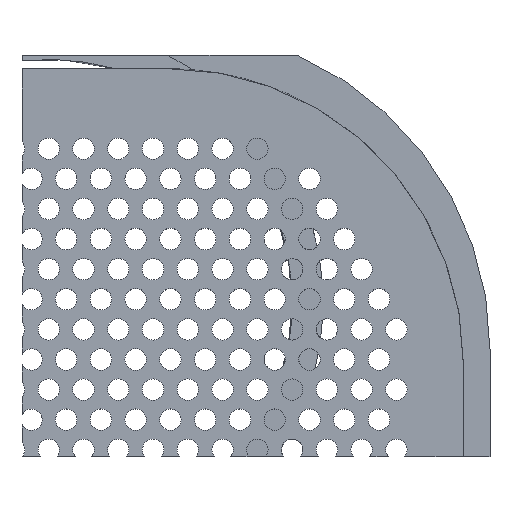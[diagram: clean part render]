
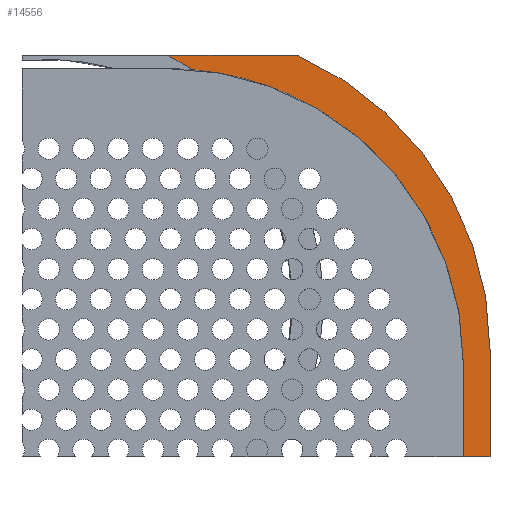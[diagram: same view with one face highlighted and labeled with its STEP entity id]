
A CAD part, top view. The second image highlights one B-rep face of the part: STEP entity #14556.
In plain terms, the highlighted planar face has unit normal (0, 0, 1).
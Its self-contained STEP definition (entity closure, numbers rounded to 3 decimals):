
#1409 = PLANE('',#1410);
#1410 = AXIS2_PLACEMENT_3D('',#1411,#1412,#1413);
#1411 = CARTESIAN_POINT('',(-18.,-15.,-1.9));
#1412 = DIRECTION('',(0.,1.,0.));
#1413 = DIRECTION('',(0.,0.,1.));
#1437 = PLANE('',#1438);
#1438 = AXIS2_PLACEMENT_3D('',#1439,#1440,#1441);
#1439 = CARTESIAN_POINT('',(15.,-52.,1.));
#1440 = DIRECTION('',(1.,0.,0.));
#1441 = DIRECTION('',(0.,0.,1.));
#1464 = CYLINDRICAL_SURFACE('',#1465,22.);
#1465 = AXIS2_PLACEMENT_3D('',#1466,#1467,#1468);
#1466 = CARTESIAN_POINT('',(-7.,-8.,1.));
#1467 = DIRECTION('',(0.,0.,1.));
#1468 = DIRECTION('',(1.,0.,-0.));
#4936 = VERTEX_POINT('',#4937);
#4937 = CARTESIAN_POINT('',(15.,-8.,1.));
#4958 = EDGE_CURVE('',#4936,#4959,#4961,.T.);
#4959 = VERTEX_POINT('',#4960);
#4960 = CARTESIAN_POINT('',(-5.203,13.927,1.));
#4961 = SURFACE_CURVE('',#4962,(#4967,#4974),.PCURVE_S1.);
#4962 = CIRCLE('',#4963,22.);
#4963 = AXIS2_PLACEMENT_3D('',#4964,#4965,#4966);
#4964 = CARTESIAN_POINT('',(-7.,-8.,1.));
#4965 = DIRECTION('',(0.,0.,1.));
#4966 = DIRECTION('',(0.,-1.,0.));
#4967 = PCURVE('',#1464,#4968);
#4968 = DEFINITIONAL_REPRESENTATION('',(#4969),#4973);
#4969 = LINE('',#4970,#4971);
#4970 = CARTESIAN_POINT('',(-1.571,0.));
#4971 = VECTOR('',#4972,1.);
#4972 = DIRECTION('',(1.,0.));
#4973 = ( GEOMETRIC_REPRESENTATION_CONTEXT(2) 
PARAMETRIC_REPRESENTATION_CONTEXT() REPRESENTATION_CONTEXT('2D SPACE',''
  ) );
#4974 = PCURVE('',#4975,#4980);
#4975 = PLANE('',#4976);
#4976 = AXIS2_PLACEMENT_3D('',#4977,#4978,#4979);
#4977 = CARTESIAN_POINT('',(-49.,-55.,1.));
#4978 = DIRECTION('',(0.,0.,1.));
#4979 = DIRECTION('',(1.,0.,-0.));
#4980 = DEFINITIONAL_REPRESENTATION('',(#4981),#4985);
#4981 = CIRCLE('',#4982,22.);
#4982 = AXIS2_PLACEMENT_2D('',#4983,#4984);
#4983 = CARTESIAN_POINT('',(42.,47.));
#4984 = DIRECTION('',(0.,-1.));
#4985 = ( GEOMETRIC_REPRESENTATION_CONTEXT(2) 
PARAMETRIC_REPRESENTATION_CONTEXT() REPRESENTATION_CONTEXT('2D SPACE',''
  ) );
#5002 = CYLINDRICAL_SURFACE('',#5003,20.5);
#5003 = AXIS2_PLACEMENT_3D('',#5004,#5005,#5006);
#5004 = CARTESIAN_POINT('',(-16.,-3.5,0.7));
#5005 = DIRECTION('',(-0.,-0.,-1.));
#5006 = DIRECTION('',(1.,0.,0.));
#5042 = VERTEX_POINT('',#5043);
#5043 = CARTESIAN_POINT('',(15.,-15.,1.));
#5064 = EDGE_CURVE('',#5042,#4936,#5065,.T.);
#5065 = SURFACE_CURVE('',#5066,(#5070,#5077),.PCURVE_S1.);
#5066 = LINE('',#5067,#5068);
#5067 = CARTESIAN_POINT('',(15.,-52.,1.));
#5068 = VECTOR('',#5069,1.);
#5069 = DIRECTION('',(0.,1.,0.));
#5070 = PCURVE('',#1437,#5071);
#5071 = DEFINITIONAL_REPRESENTATION('',(#5072),#5076);
#5072 = LINE('',#5073,#5074);
#5073 = CARTESIAN_POINT('',(0.,0.));
#5074 = VECTOR('',#5075,1.);
#5075 = DIRECTION('',(0.,-1.));
#5076 = ( GEOMETRIC_REPRESENTATION_CONTEXT(2) 
PARAMETRIC_REPRESENTATION_CONTEXT() REPRESENTATION_CONTEXT('2D SPACE',''
  ) );
#5077 = PCURVE('',#4975,#5078);
#5078 = DEFINITIONAL_REPRESENTATION('',(#5079),#5083);
#5079 = LINE('',#5080,#5081);
#5080 = CARTESIAN_POINT('',(64.,3.));
#5081 = VECTOR('',#5082,1.);
#5082 = DIRECTION('',(0.,1.));
#5083 = ( GEOMETRIC_REPRESENTATION_CONTEXT(2) 
PARAMETRIC_REPRESENTATION_CONTEXT() REPRESENTATION_CONTEXT('2D SPACE',''
  ) );
#5091 = EDGE_CURVE('',#5092,#5042,#5094,.T.);
#5092 = VERTEX_POINT('',#5093);
#5093 = CARTESIAN_POINT('',(17.,-15.,1.));
#5094 = SURFACE_CURVE('',#5095,(#5099,#5106),.PCURVE_S1.);
#5095 = LINE('',#5096,#5097);
#5096 = CARTESIAN_POINT('',(-33.5,-15.,1.));
#5097 = VECTOR('',#5098,1.);
#5098 = DIRECTION('',(-1.,0.,0.));
#5099 = PCURVE('',#1409,#5100);
#5100 = DEFINITIONAL_REPRESENTATION('',(#5101),#5105);
#5101 = LINE('',#5102,#5103);
#5102 = CARTESIAN_POINT('',(2.9,-15.5));
#5103 = VECTOR('',#5104,1.);
#5104 = DIRECTION('',(0.,-1.));
#5105 = ( GEOMETRIC_REPRESENTATION_CONTEXT(2) 
PARAMETRIC_REPRESENTATION_CONTEXT() REPRESENTATION_CONTEXT('2D SPACE',''
  ) );
#5106 = PCURVE('',#4975,#5107);
#5107 = DEFINITIONAL_REPRESENTATION('',(#5108),#5112);
#5108 = LINE('',#5109,#5110);
#5109 = CARTESIAN_POINT('',(15.5,40.));
#5110 = VECTOR('',#5111,1.);
#5111 = DIRECTION('',(-1.,0.));
#5112 = ( GEOMETRIC_REPRESENTATION_CONTEXT(2) 
PARAMETRIC_REPRESENTATION_CONTEXT() REPRESENTATION_CONTEXT('2D SPACE',''
  ) );
#5130 = PLANE('',#5131);
#5131 = AXIS2_PLACEMENT_3D('',#5132,#5133,#5134);
#5132 = CARTESIAN_POINT('',(17.,-55.,0.));
#5133 = DIRECTION('',(1.,0.,0.));
#5134 = DIRECTION('',(0.,0.,1.));
#14522 = PLANE('',#14523);
#14523 = AXIS2_PLACEMENT_3D('',#14524,#14525,#14526);
#14524 = CARTESIAN_POINT('',(-18.,15.,-1.9));
#14525 = DIRECTION('',(0.,1.,0.));
#14526 = DIRECTION('',(0.,0.,1.));
#14556 = ADVANCED_FACE('',(#14557),#4975,.T.);
#14557 = FACE_BOUND('',#14558,.T.);
#14558 = EDGE_LOOP('',(#14559,#14584,#14610,#14611,#14612,#14613,#14636)
  );
#14559 = ORIENTED_EDGE('',*,*,#14560,.T.);
#14560 = EDGE_CURVE('',#14561,#14563,#14565,.T.);
#14561 = VERTEX_POINT('',#14562);
#14562 = CARTESIAN_POINT('',(2.592,15.,1.));
#14563 = VERTEX_POINT('',#14564);
#14564 = CARTESIAN_POINT('',(-7.168,15.,1.));
#14565 = SURFACE_CURVE('',#14566,(#14570,#14577),.PCURVE_S1.);
#14566 = LINE('',#14567,#14568);
#14567 = CARTESIAN_POINT('',(-33.5,15.,1.));
#14568 = VECTOR('',#14569,1.);
#14569 = DIRECTION('',(-1.,0.,0.));
#14570 = PCURVE('',#4975,#14571);
#14571 = DEFINITIONAL_REPRESENTATION('',(#14572),#14576);
#14572 = LINE('',#14573,#14574);
#14573 = CARTESIAN_POINT('',(15.5,70.));
#14574 = VECTOR('',#14575,1.);
#14575 = DIRECTION('',(-1.,0.));
#14576 = ( GEOMETRIC_REPRESENTATION_CONTEXT(2) 
PARAMETRIC_REPRESENTATION_CONTEXT() REPRESENTATION_CONTEXT('2D SPACE',''
  ) );
#14577 = PCURVE('',#14522,#14578);
#14578 = DEFINITIONAL_REPRESENTATION('',(#14579),#14583);
#14579 = LINE('',#14580,#14581);
#14580 = CARTESIAN_POINT('',(2.9,-15.5));
#14581 = VECTOR('',#14582,1.);
#14582 = DIRECTION('',(0.,-1.));
#14583 = ( GEOMETRIC_REPRESENTATION_CONTEXT(2) 
PARAMETRIC_REPRESENTATION_CONTEXT() REPRESENTATION_CONTEXT('2D SPACE',''
  ) );
#14584 = ORIENTED_EDGE('',*,*,#14585,.T.);
#14585 = EDGE_CURVE('',#14563,#4959,#14586,.T.);
#14586 = SURFACE_CURVE('',#14587,(#14592,#14603),.PCURVE_S1.);
#14587 = CIRCLE('',#14588,20.5);
#14588 = AXIS2_PLACEMENT_3D('',#14589,#14590,#14591);
#14589 = CARTESIAN_POINT('',(-16.,-3.5,1.));
#14590 = DIRECTION('',(0.,0.,-1.));
#14591 = DIRECTION('',(1.,0.,0.));
#14592 = PCURVE('',#4975,#14593);
#14593 = DEFINITIONAL_REPRESENTATION('',(#14594),#14602);
#14594 = ( BOUNDED_CURVE() B_SPLINE_CURVE(2,(#14595,#14596,#14597,#14598
    ,#14599,#14600,#14601),.UNSPECIFIED.,.T.,.F.) 
B_SPLINE_CURVE_WITH_KNOTS((1,2,2,2,2,1),(-2.094,0.,
    2.094,4.189,6.283,8.378),
.UNSPECIFIED.) CURVE() GEOMETRIC_REPRESENTATION_ITEM() 
RATIONAL_B_SPLINE_CURVE((1.,0.5,1.,0.5,1.,0.5,1.)) REPRESENTATION_ITEM(
  '') );
#14595 = CARTESIAN_POINT('',(53.5,51.5));
#14596 = CARTESIAN_POINT('',(53.5,15.993));
#14597 = CARTESIAN_POINT('',(22.75,33.746));
#14598 = CARTESIAN_POINT('',(-8.,51.5));
#14599 = CARTESIAN_POINT('',(22.75,69.254));
#14600 = CARTESIAN_POINT('',(53.5,87.007));
#14601 = CARTESIAN_POINT('',(53.5,51.5));
#14602 = ( GEOMETRIC_REPRESENTATION_CONTEXT(2) 
PARAMETRIC_REPRESENTATION_CONTEXT() REPRESENTATION_CONTEXT('2D SPACE',''
  ) );
#14603 = PCURVE('',#5002,#14604);
#14604 = DEFINITIONAL_REPRESENTATION('',(#14605),#14609);
#14605 = LINE('',#14606,#14607);
#14606 = CARTESIAN_POINT('',(0.,-0.3));
#14607 = VECTOR('',#14608,1.);
#14608 = DIRECTION('',(1.,-0.));
#14609 = ( GEOMETRIC_REPRESENTATION_CONTEXT(2) 
PARAMETRIC_REPRESENTATION_CONTEXT() REPRESENTATION_CONTEXT('2D SPACE',''
  ) );
#14610 = ORIENTED_EDGE('',*,*,#4958,.F.);
#14611 = ORIENTED_EDGE('',*,*,#5064,.F.);
#14612 = ORIENTED_EDGE('',*,*,#5091,.F.);
#14613 = ORIENTED_EDGE('',*,*,#14614,.T.);
#14614 = EDGE_CURVE('',#5092,#14615,#14617,.T.);
#14615 = VERTEX_POINT('',#14616);
#14616 = CARTESIAN_POINT('',(17.,-7.,1.));
#14617 = SURFACE_CURVE('',#14618,(#14622,#14629),.PCURVE_S1.);
#14618 = LINE('',#14619,#14620);
#14619 = CARTESIAN_POINT('',(17.,-55.,1.));
#14620 = VECTOR('',#14621,1.);
#14621 = DIRECTION('',(0.,1.,0.));
#14622 = PCURVE('',#4975,#14623);
#14623 = DEFINITIONAL_REPRESENTATION('',(#14624),#14628);
#14624 = LINE('',#14625,#14626);
#14625 = CARTESIAN_POINT('',(66.,0.));
#14626 = VECTOR('',#14627,1.);
#14627 = DIRECTION('',(0.,1.));
#14628 = ( GEOMETRIC_REPRESENTATION_CONTEXT(2) 
PARAMETRIC_REPRESENTATION_CONTEXT() REPRESENTATION_CONTEXT('2D SPACE',''
  ) );
#14629 = PCURVE('',#5130,#14630);
#14630 = DEFINITIONAL_REPRESENTATION('',(#14631),#14635);
#14631 = LINE('',#14632,#14633);
#14632 = CARTESIAN_POINT('',(1.,0.));
#14633 = VECTOR('',#14634,1.);
#14634 = DIRECTION('',(0.,-1.));
#14635 = ( GEOMETRIC_REPRESENTATION_CONTEXT(2) 
PARAMETRIC_REPRESENTATION_CONTEXT() REPRESENTATION_CONTEXT('2D SPACE',''
  ) );
#14636 = ORIENTED_EDGE('',*,*,#14637,.T.);
#14637 = EDGE_CURVE('',#14615,#14561,#14638,.T.);
#14638 = SURFACE_CURVE('',#14639,(#14644,#14651),.PCURVE_S1.);
#14639 = CIRCLE('',#14640,24.);
#14640 = AXIS2_PLACEMENT_3D('',#14641,#14642,#14643);
#14641 = CARTESIAN_POINT('',(-7.,-7.,1.));
#14642 = DIRECTION('',(0.,0.,1.));
#14643 = DIRECTION('',(0.,-1.,0.));
#14644 = PCURVE('',#4975,#14645);
#14645 = DEFINITIONAL_REPRESENTATION('',(#14646),#14650);
#14646 = CIRCLE('',#14647,24.);
#14647 = AXIS2_PLACEMENT_2D('',#14648,#14649);
#14648 = CARTESIAN_POINT('',(42.,48.));
#14649 = DIRECTION('',(0.,-1.));
#14650 = ( GEOMETRIC_REPRESENTATION_CONTEXT(2) 
PARAMETRIC_REPRESENTATION_CONTEXT() REPRESENTATION_CONTEXT('2D SPACE',''
  ) );
#14651 = PCURVE('',#14652,#14657);
#14652 = CYLINDRICAL_SURFACE('',#14653,24.);
#14653 = AXIS2_PLACEMENT_3D('',#14654,#14655,#14656);
#14654 = CARTESIAN_POINT('',(-7.,-7.,0.));
#14655 = DIRECTION('',(0.,0.,1.));
#14656 = DIRECTION('',(1.,0.,-0.));
#14657 = DEFINITIONAL_REPRESENTATION('',(#14658),#14662);
#14658 = LINE('',#14659,#14660);
#14659 = CARTESIAN_POINT('',(-1.571,1.));
#14660 = VECTOR('',#14661,1.);
#14661 = DIRECTION('',(1.,0.));
#14662 = ( GEOMETRIC_REPRESENTATION_CONTEXT(2) 
PARAMETRIC_REPRESENTATION_CONTEXT() REPRESENTATION_CONTEXT('2D SPACE',''
  ) );
